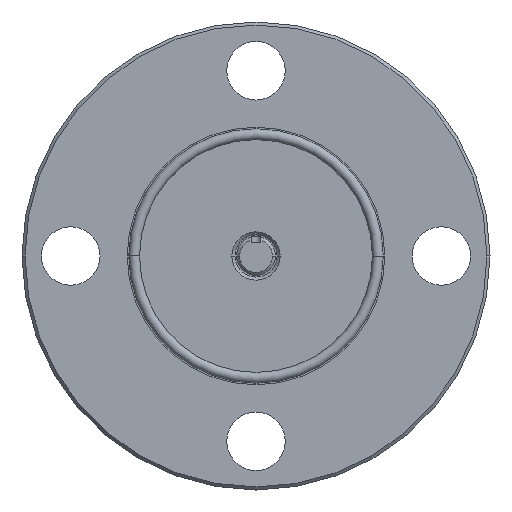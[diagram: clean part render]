
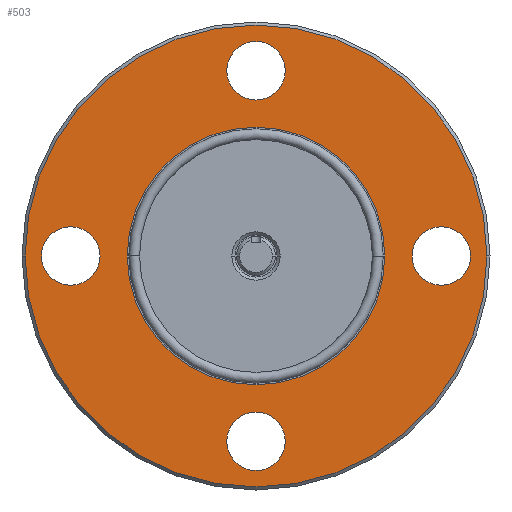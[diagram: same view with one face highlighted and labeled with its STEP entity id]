
A CAD part, left-side view. The second image highlights one B-rep face of the part: STEP entity #503.
In plain terms, the highlighted planar face has unit normal (-1, 0, 0).
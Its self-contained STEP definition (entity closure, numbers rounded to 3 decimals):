
#46 = VERTEX_POINT ( 'NONE', #3141 ) ;
#47 = EDGE_CURVE ( 'NONE', #52, #46, #3199, .T. ) ;
#52 = VERTEX_POINT ( 'NONE', #3182 ) ;
#88 = VERTEX_POINT ( 'NONE', #3251 ) ;
#93 = EDGE_CURVE ( 'NONE', #88, #94, #3295, .T. ) ;
#94 = VERTEX_POINT ( 'NONE', #3291 ) ;
#112 = EDGE_CURVE ( 'NONE', #114, #113, #3323, .T. ) ;
#113 = VERTEX_POINT ( 'NONE', #3318 ) ;
#114 = VERTEX_POINT ( 'NONE', #3317 ) ;
#120 = EDGE_CURVE ( 'NONE', #121, #123, #3369, .T. ) ;
#121 = VERTEX_POINT ( 'NONE', #3364 ) ;
#123 = VERTEX_POINT ( 'NONE', #3363 ) ;
#480 = EDGE_CURVE ( 'NONE', #23690, #23686, #4824, .T. ) ;
#481 = ORIENTED_EDGE ( 'NONE', *, *, #23678, .T. ) ;
#482 = EDGE_LOOP ( 'NONE', ( #483, #485 ) ) ;
#483 = ORIENTED_EDGE ( 'NONE', *, *, #484, .F. ) ;
#484 = EDGE_CURVE ( 'NONE', #23681, #23692, #4819, .T. ) ;
#485 = ORIENTED_EDGE ( 'NONE', *, *, #23682, .F. ) ;
#486 = EDGE_LOOP ( 'NONE', ( #487, #489 ) ) ;
#487 = ORIENTED_EDGE ( 'NONE', *, *, #488, .F. ) ;
#488 = EDGE_CURVE ( 'NONE', #123, #121, #4814, .T. ) ;
#489 = ORIENTED_EDGE ( 'NONE', *, *, #120, .F. ) ;
#490 = EDGE_LOOP ( 'NONE', ( #491, #546 ) ) ;
#491 = ORIENTED_EDGE ( 'NONE', *, *, #492, .F. ) ;
#492 = EDGE_CURVE ( 'NONE', #46, #52, #4809, .T. ) ;
#493 = EDGE_LOOP ( 'NONE', ( #547, #549 ) ) ;
#503 = ADVANCED_FACE ( 'NONE', ( #4844, #4843, #4842, #4841, #4840, #4839 ), #4838, .T. ) ;
#504 = EDGE_LOOP ( 'NONE', ( #505, #481 ) ) ;
#505 = ORIENTED_EDGE ( 'NONE', *, *, #480, .T. ) ;
#546 = ORIENTED_EDGE ( 'NONE', *, *, #47, .F. ) ;
#547 = ORIENTED_EDGE ( 'NONE', *, *, #548, .F. ) ;
#548 = EDGE_CURVE ( 'NONE', #113, #114, #4942, .T. ) ;
#549 = ORIENTED_EDGE ( 'NONE', *, *, #112, .F. ) ;
#550 = EDGE_LOOP ( 'NONE', ( #551, #553 ) ) ;
#551 = ORIENTED_EDGE ( 'NONE', *, *, #552, .F. ) ;
#552 = EDGE_CURVE ( 'NONE', #94, #88, #4937, .T. ) ;
#553 = ORIENTED_EDGE ( 'NONE', *, *, #93, .F. ) ;
#3140 = CARTESIAN_POINT ( 'NONE',  ( 31.75, -60.325, 0. ) ) ;
#3141 = CARTESIAN_POINT ( 'NONE',  ( 31.75, -69.85, 0. ) ) ;
#3182 = CARTESIAN_POINT ( 'NONE',  ( 31.75, -50.8, 0. ) ) ;
#3196 = DIRECTION ( 'NONE',  ( 0., 1., 0. ) ) ;
#3197 = DIRECTION ( 'NONE',  ( -1., 0., 0. ) ) ;
#3198 = AXIS2_PLACEMENT_3D ( 'NONE', #3140, #3197, #3196 ) ;
#3199 = CIRCLE ( 'NONE', #3198, 9.525 ) ;
#3251 = CARTESIAN_POINT ( 'NONE',  ( 31.75, 41.925, 0. ) ) ;
#3291 = CARTESIAN_POINT ( 'NONE',  ( 31.75, -41.925, 0. ) ) ;
#3292 = DIRECTION ( 'NONE',  ( 0., -1., 0. ) ) ;
#3293 = DIRECTION ( 'NONE',  ( -1., 0., 0. ) ) ;
#3294 = AXIS2_PLACEMENT_3D ( 'NONE', #3300, #3293, #3292 ) ;
#3295 = CIRCLE ( 'NONE', #3294, 41.925 ) ;
#3300 = CARTESIAN_POINT ( 'NONE',  ( 31.75, 0., 0. ) ) ;
#3317 = CARTESIAN_POINT ( 'NONE',  ( 31.75, 9.525, 60.325 ) ) ;
#3318 = CARTESIAN_POINT ( 'NONE',  ( 31.75, -9.525, 60.325 ) ) ;
#3319 = DIRECTION ( 'NONE',  ( 0., 0., -1. ) ) ;
#3320 = DIRECTION ( 'NONE',  ( -1., 0., 0. ) ) ;
#3321 = CARTESIAN_POINT ( 'NONE',  ( 31.75, 0., 60.325 ) ) ;
#3322 = AXIS2_PLACEMENT_3D ( 'NONE', #3321, #3320, #3319 ) ;
#3323 = CIRCLE ( 'NONE', #3322, 9.525 ) ;
#3363 = CARTESIAN_POINT ( 'NONE',  ( 31.75, -9.525, -60.325 ) ) ;
#3364 = CARTESIAN_POINT ( 'NONE',  ( 31.75, 9.525, -60.325 ) ) ;
#3365 = DIRECTION ( 'NONE',  ( 0., 0., 1. ) ) ;
#3366 = DIRECTION ( 'NONE',  ( -1., 0., 0. ) ) ;
#3367 = CARTESIAN_POINT ( 'NONE',  ( 31.75, 0., -60.325 ) ) ;
#3368 = AXIS2_PLACEMENT_3D ( 'NONE', #3367, #3366, #3365 ) ;
#3369 = CIRCLE ( 'NONE', #3368, 9.525 ) ;
#4805 = DIRECTION ( 'NONE',  ( 0., 1., 0. ) ) ;
#4806 = DIRECTION ( 'NONE',  ( -1., 0., 0. ) ) ;
#4807 = CARTESIAN_POINT ( 'NONE',  ( 31.75, -60.325, 0. ) ) ;
#4808 = AXIS2_PLACEMENT_3D ( 'NONE', #4807, #4806, #4805 ) ;
#4809 = CIRCLE ( 'NONE', #4808, 9.525 ) ;
#4810 = DIRECTION ( 'NONE',  ( 0., 0., 1. ) ) ;
#4811 = DIRECTION ( 'NONE',  ( -1., 0., 0. ) ) ;
#4812 = CARTESIAN_POINT ( 'NONE',  ( 31.75, 0., -60.325 ) ) ;
#4813 = AXIS2_PLACEMENT_3D ( 'NONE', #4812, #4811, #4810 ) ;
#4814 = CIRCLE ( 'NONE', #4813, 9.525 ) ;
#4815 = DIRECTION ( 'NONE',  ( 0., -1., 0. ) ) ;
#4816 = DIRECTION ( 'NONE',  ( -1., 0., 0. ) ) ;
#4817 = CARTESIAN_POINT ( 'NONE',  ( 31.75, 60.325, 0. ) ) ;
#4818 = AXIS2_PLACEMENT_3D ( 'NONE', #4817, #4816, #4815 ) ;
#4819 = CIRCLE ( 'NONE', #4818, 9.525 ) ;
#4820 = DIRECTION ( 'NONE',  ( 0., -1., 0. ) ) ;
#4821 = DIRECTION ( 'NONE',  ( -1., 0., 0. ) ) ;
#4822 = CARTESIAN_POINT ( 'NONE',  ( 31.75, 0., 0. ) ) ;
#4823 = AXIS2_PLACEMENT_3D ( 'NONE', #4822, #4821, #4820 ) ;
#4824 = CIRCLE ( 'NONE', #4823, 75.2 ) ;
#4834 = DIRECTION ( 'NONE',  ( 0., -1., 0. ) ) ;
#4835 = DIRECTION ( 'NONE',  ( -1., 0., 0. ) ) ;
#4836 = CARTESIAN_POINT ( 'NONE',  ( 31.75, 6.35, 0. ) ) ;
#4837 = AXIS2_PLACEMENT_3D ( 'NONE', #4836, #4835, #4834 ) ;
#4838 = PLANE ( 'NONE',  #4837 ) ;
#4839 = FACE_BOUND ( 'NONE', #550, .T. ) ;
#4840 = FACE_BOUND ( 'NONE', #493, .T. ) ;
#4841 = FACE_BOUND ( 'NONE', #490, .T. ) ;
#4842 = FACE_BOUND ( 'NONE', #486, .T. ) ;
#4843 = FACE_BOUND ( 'NONE', #482, .T. ) ;
#4844 = FACE_OUTER_BOUND ( 'NONE', #504, .T. ) ;
#4933 = DIRECTION ( 'NONE',  ( 0., -1., 0. ) ) ;
#4934 = DIRECTION ( 'NONE',  ( -1., 0., 0. ) ) ;
#4935 = CARTESIAN_POINT ( 'NONE',  ( 31.75, 0., 0. ) ) ;
#4936 = AXIS2_PLACEMENT_3D ( 'NONE', #4935, #4934, #4933 ) ;
#4937 = CIRCLE ( 'NONE', #4936, 41.925 ) ;
#4938 = DIRECTION ( 'NONE',  ( 0., 0., -1. ) ) ;
#4939 = DIRECTION ( 'NONE',  ( -1., 0., 0. ) ) ;
#4940 = CARTESIAN_POINT ( 'NONE',  ( 31.75, 0., 60.325 ) ) ;
#4941 = AXIS2_PLACEMENT_3D ( 'NONE', #4940, #4939, #4938 ) ;
#4942 = CIRCLE ( 'NONE', #4941, 9.525 ) ;
#23544 = CARTESIAN_POINT ( 'NONE',  ( 31.75, -75.2, 0. ) ) ;
#23545 = CARTESIAN_POINT ( 'NONE',  ( 31.75, 75.2, 0. ) ) ;
#23549 = DIRECTION ( 'NONE',  ( 0., -1., 0. ) ) ;
#23550 = DIRECTION ( 'NONE',  ( -1., 0., 0. ) ) ;
#23551 = CARTESIAN_POINT ( 'NONE',  ( 31.75, 60.325, 0. ) ) ;
#23552 = AXIS2_PLACEMENT_3D ( 'NONE', #23551, #23550, #23549 ) ;
#23553 = CIRCLE ( 'NONE', #23552, 9.525 ) ;
#23555 = CARTESIAN_POINT ( 'NONE',  ( 31.75, 50.8, 0. ) ) ;
#23557 = DIRECTION ( 'NONE',  ( 0., -1., 0. ) ) ;
#23558 = DIRECTION ( 'NONE',  ( -1., 0., 0. ) ) ;
#23559 = AXIS2_PLACEMENT_3D ( 'NONE', #23565, #23558, #23557 ) ;
#23560 = CIRCLE ( 'NONE', #23559, 75.2 ) ;
#23565 = CARTESIAN_POINT ( 'NONE',  ( 31.75, 0., 0. ) ) ;
#23592 = CARTESIAN_POINT ( 'NONE',  ( 31.75, 69.85, 0. ) ) ;
#23678 = EDGE_CURVE ( 'NONE', #23686, #23690, #23560, .T. ) ;
#23681 = VERTEX_POINT ( 'NONE', #23555 ) ;
#23682 = EDGE_CURVE ( 'NONE', #23692, #23681, #23553, .T. ) ;
#23686 = VERTEX_POINT ( 'NONE', #23544 ) ;
#23690 = VERTEX_POINT ( 'NONE', #23545 ) ;
#23692 = VERTEX_POINT ( 'NONE', #23592 ) ;
